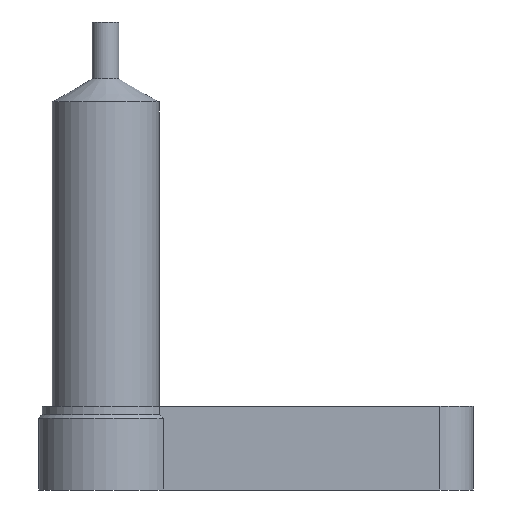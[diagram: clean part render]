
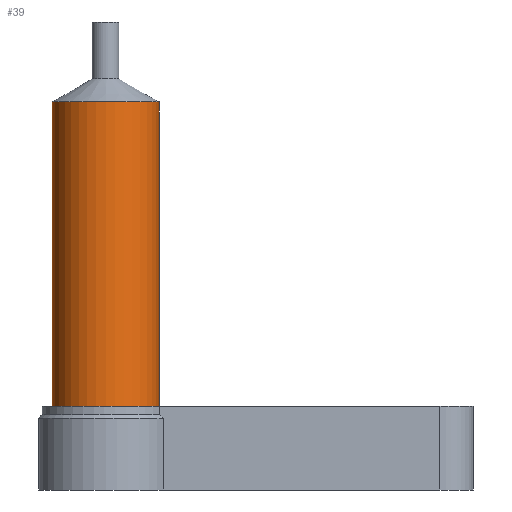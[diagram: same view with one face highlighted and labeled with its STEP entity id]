
A CAD part, front view. The second image highlights one B-rep face of the part: STEP entity #39.
In plain terms, the highlighted cylindrical face has radius 16 mm (diameter 32 mm), a full revolution.
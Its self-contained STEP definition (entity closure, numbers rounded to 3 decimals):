
#39 = ADVANCED_FACE( '', ( #83, #84 ), #85, .T. );
#83 = FACE_OUTER_BOUND( '', #133, .T. );
#84 = FACE_OUTER_BOUND( '', #134, .T. );
#85 = CYLINDRICAL_SURFACE( '', #135, 16. );
#133 = EDGE_LOOP( '', ( #182 ) );
#134 = EDGE_LOOP( '', ( #183 ) );
#135 = AXIS2_PLACEMENT_3D( '', #184, #185, #186 );
#182 = ORIENTED_EDGE( '', *, *, #281, .F. );
#183 = ORIENTED_EDGE( '', *, *, #282, .F. );
#184 = CARTESIAN_POINT( '', ( 0., 0., 111. ) );
#185 = DIRECTION( '', ( 0., 0., 1. ) );
#186 = DIRECTION( '', ( -1., 0., 0. ) );
#281 = EDGE_CURVE( '', #323, #323, #324, .T. );
#282 = EDGE_CURVE( '', #325, #325, #326, .F. );
#323 = VERTEX_POINT( '', #381 );
#324 = CIRCLE( '', #382, 16. );
#325 = VERTEX_POINT( '', #383 );
#326 = CIRCLE( '', #384, 16. );
#381 = CARTESIAN_POINT( '', ( 0., 16., 116.072 ) );
#382 = AXIS2_PLACEMENT_3D( '', #450, #451, #452 );
#383 = CARTESIAN_POINT( '', ( 0., -16., 25. ) );
#384 = AXIS2_PLACEMENT_3D( '', #453, #454, #455 );
#450 = CARTESIAN_POINT( '', ( 0., 0., 116.072 ) );
#451 = DIRECTION( '', ( 0., 0., 1. ) );
#452 = DIRECTION( '', ( 0., 1., 0. ) );
#453 = CARTESIAN_POINT( '', ( 0., 0., 25. ) );
#454 = DIRECTION( '', ( 0., 0., 1. ) );
#455 = DIRECTION( '', ( 0., -1., 0. ) );
